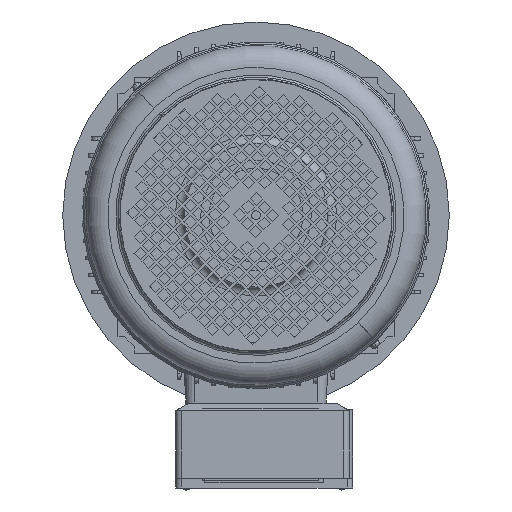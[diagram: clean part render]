
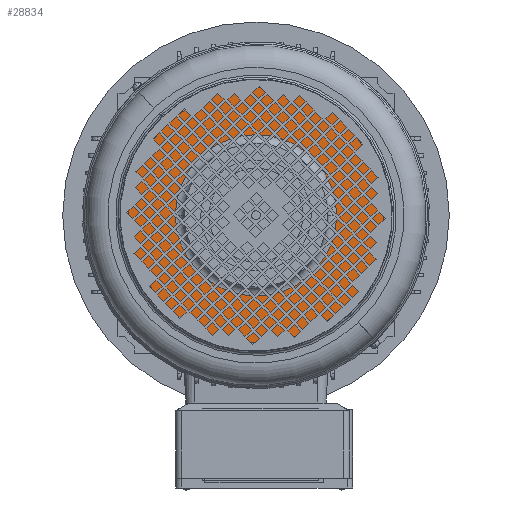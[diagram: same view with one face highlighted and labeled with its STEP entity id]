
A CAD part, front view. The second image highlights one B-rep face of the part: STEP entity #28834.
In plain terms, the highlighted planar face has unit normal (0, -1, 0).
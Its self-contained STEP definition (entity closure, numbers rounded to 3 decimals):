
#1517 = DIRECTION ( 'NONE',  ( 0., 0., 1. ) ) ;
#1719 = CARTESIAN_POINT ( 'NONE',  ( 0., -4.723, 0. ) ) ;
#5785 = CARTESIAN_POINT ( 'NONE',  ( 0., -4.723, 0. ) ) ;
#9322 = FACE_OUTER_BOUND ( 'NONE', #57041, .T. ) ;
#10723 = CARTESIAN_POINT ( 'NONE',  ( 0., -4.723, 0. ) ) ;
#12066 = PLANE ( 'NONE',  #18460 ) ;
#12343 = ORIENTED_EDGE ( 'NONE', *, *, #32755, .F. ) ;
#12634 = CARTESIAN_POINT ( 'NONE',  ( -73., -4.723, 0. ) ) ;
#15757 = EDGE_CURVE ( 'NONE', #61443, #78156, #30720, .T. ) ;
#17543 = AXIS2_PLACEMENT_3D ( 'NONE', #41988, #35776, #1517 ) ;
#18361 = AXIS2_PLACEMENT_3D ( 'NONE', #1719, #22141, #82178 ) ;
#18460 = AXIS2_PLACEMENT_3D ( 'NONE', #12634, #59363, #73257 ) ;
#22141 = DIRECTION ( 'NONE',  ( 0., 1., 0. ) ) ;
#23860 = CARTESIAN_POINT ( 'NONE',  ( 0., -4.723, 73. ) ) ;
#25176 = CIRCLE ( 'NONE', #17543, 115.607 ) ;
#27324 = FACE_BOUND ( 'NONE', #64333, .T. ) ;
#28834 = ADVANCED_FACE ( 'NONE', ( #27324, #9322 ), #12066, .T. ) ;
#29367 = CARTESIAN_POINT ( 'NONE',  ( 0., -4.723, -73. ) ) ;
#30720 = CIRCLE ( 'NONE', #41637, 115.607 ) ;
#32755 = EDGE_CURVE ( 'NONE', #78156, #61443, #25176, .T. ) ;
#35776 = DIRECTION ( 'NONE',  ( 0., 1., 0. ) ) ;
#38990 = AXIS2_PLACEMENT_3D ( 'NONE', #10723, #50922, #71344 ) ;
#41562 = EDGE_CURVE ( 'NONE', #51486, #79409, #77587, .T. ) ;
#41637 = AXIS2_PLACEMENT_3D ( 'NONE', #5785, #53061, #66618 ) ;
#41988 = CARTESIAN_POINT ( 'NONE',  ( 0., -4.723, 0. ) ) ;
#42974 = CIRCLE ( 'NONE', #18361, 73. ) ;
#43693 = ORIENTED_EDGE ( 'NONE', *, *, #52701, .T. ) ;
#49256 = ORIENTED_EDGE ( 'NONE', *, *, #41562, .T. ) ;
#50922 = DIRECTION ( 'NONE',  ( 0., 1., 0. ) ) ;
#51486 = VERTEX_POINT ( 'NONE', #29367 ) ;
#52701 = EDGE_CURVE ( 'NONE', #79409, #51486, #42974, .T. ) ;
#53061 = DIRECTION ( 'NONE',  ( 0., 1., 0. ) ) ;
#57041 = EDGE_LOOP ( 'NONE', ( #12343, #58250 ) ) ;
#58250 = ORIENTED_EDGE ( 'NONE', *, *, #15757, .F. ) ;
#59363 = DIRECTION ( 'NONE',  ( 0., -1., 0. ) ) ;
#61443 = VERTEX_POINT ( 'NONE', #76610 ) ;
#64333 = EDGE_LOOP ( 'NONE', ( #43693, #49256 ) ) ;
#66618 = DIRECTION ( 'NONE',  ( 0., 0., 1. ) ) ;
#71344 = DIRECTION ( 'NONE',  ( 0., 0., 1. ) ) ;
#73257 = DIRECTION ( 'NONE',  ( 0., 0., -1. ) ) ;
#76610 = CARTESIAN_POINT ( 'NONE',  ( 0., -4.723, -115.607 ) ) ;
#77587 = CIRCLE ( 'NONE', #38990, 73. ) ;
#78156 = VERTEX_POINT ( 'NONE', #80525 ) ;
#79409 = VERTEX_POINT ( 'NONE', #23860 ) ;
#80525 = CARTESIAN_POINT ( 'NONE',  ( 0., -4.723, 115.607 ) ) ;
#82178 = DIRECTION ( 'NONE',  ( 0., 0., 1. ) ) ;
